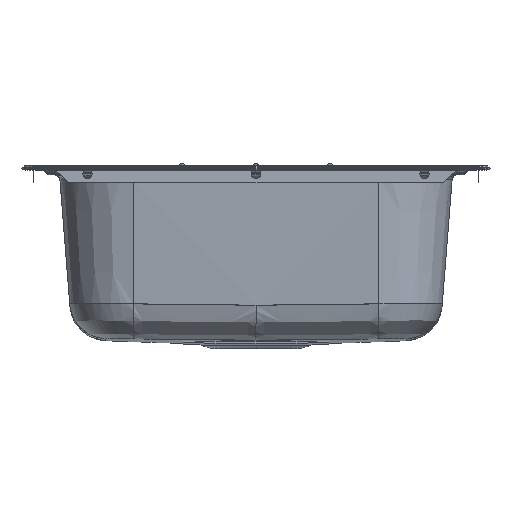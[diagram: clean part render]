
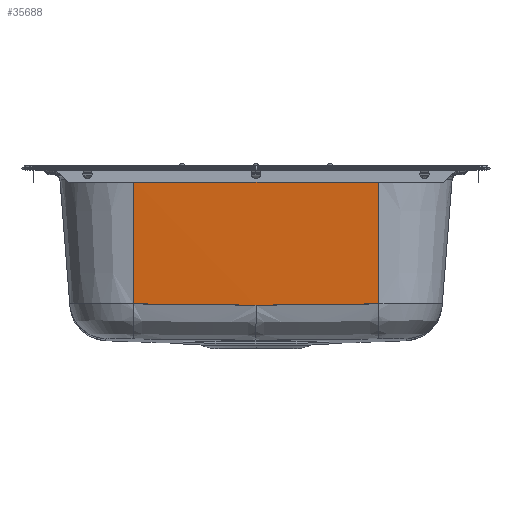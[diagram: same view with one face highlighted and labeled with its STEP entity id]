
A CAD part, left-side view. The second image highlights one B-rep face of the part: STEP entity #35688.
In plain terms, the highlighted conical face has half-angle 4.5 degrees and reference radius 4995.03 mm.
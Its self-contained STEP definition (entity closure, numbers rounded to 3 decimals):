
#8485=CARTESIAN_POINT('',(-385.632,131.042,
-147.846));
#8530=CARTESIAN_POINT('',(-396.091,131.317,
-14.91));
#8532=DIRECTION('',(-0.078,0.002,0.997));
#8533=VECTOR('',#8532,133.347);
#8534=CARTESIAN_POINT('',(-385.632,131.042,
-147.846));
#8535=LINE('',#8534,#8533);
#8576=CARTESIAN_POINT('',(-385.632,131.042,
-147.846));
#8577=CARTESIAN_POINT('',(-385.748,126.37,
-147.939));
#8578=CARTESIAN_POINT('',(-385.964,117.123,
-148.115));
#8579=CARTESIAN_POINT('',(-386.245,103.561,
-148.352));
#8580=CARTESIAN_POINT('',(-386.487,90.25,
-148.564));
#8581=CARTESIAN_POINT('',(-386.692,77.139,
-148.749));
#8582=CARTESIAN_POINT('',(-386.863,64.16,
-148.907));
#8583=CARTESIAN_POINT('',(-387.002,51.249,
-149.039));
#8584=CARTESIAN_POINT('',(-387.109,38.4,
-149.143));
#8585=CARTESIAN_POINT('',(-387.186,25.554,
-149.218));
#8586=CARTESIAN_POINT('',(-387.231,12.721,
-149.263));
#8587=CARTESIAN_POINT('',(-387.241,4.232,
-149.273));
#8588=CARTESIAN_POINT('',(-387.241,0.,
-149.273));
#8590=CARTESIAN_POINT('',(4602.5,0.,-14.91));
#8591=DIRECTION('',(0.,0.,1.));
#8592=DIRECTION('',(-1.,0.026,0.));
#8593=AXIS2_PLACEMENT_3D('',#8590,#8591,#8592);
#8595=CARTESIAN_POINT('',(-396.095,131.183,
-14.91));
#8596=CARTESIAN_POINT('',(-396.274,124.379,
-14.902));
#8597=CARTESIAN_POINT('',(-396.582,111.605,
-14.887));
#8598=CARTESIAN_POINT('',(-396.905,95.992,
-14.873));
#8599=CARTESIAN_POINT('',(-397.175,80.791,
-14.86));
#8600=CARTESIAN_POINT('',(-397.407,65.004,
-14.85));
#8601=CARTESIAN_POINT('',(-397.589,48.919,
-14.842));
#8602=CARTESIAN_POINT('',(-397.71,34.522,
-14.836));
#8603=CARTESIAN_POINT('',(-397.802,17.492,
-14.833));
#8604=CARTESIAN_POINT('',(-397.832,-0.305,
-14.831));
#8605=CARTESIAN_POINT('',(-397.8,-18.092,
-14.833));
#8606=CARTESIAN_POINT('',(-397.706,-35.053,
-14.837));
#8607=CARTESIAN_POINT('',(-397.584,-49.419,
-14.842));
#8608=CARTESIAN_POINT('',(-397.4,-65.561,
-14.85));
#8609=CARTESIAN_POINT('',(-397.166,-81.337,
-14.861));
#8610=CARTESIAN_POINT('',(-396.895,-96.486,
-14.873));
#8611=CARTESIAN_POINT('',(-396.573,-111.966,
-14.888));
#8612=CARTESIAN_POINT('',(-396.27,-124.517,
-14.902));
#8613=CARTESIAN_POINT('',(-396.095,-131.183,
-14.91));
#8615=CARTESIAN_POINT('',(4602.5,0.,-14.91));
#8616=DIRECTION('',(0.,0.,1.));
#8617=DIRECTION('',(-1.,-0.026,0.));
#8618=AXIS2_PLACEMENT_3D('',#8615,#8616,#8617);
#8620=CARTESIAN_POINT('',(-387.241,0.,
-149.273));
#8621=CARTESIAN_POINT('',(-387.241,-4.232,
-149.273));
#8622=CARTESIAN_POINT('',(-387.231,-12.721,
-149.263));
#8623=CARTESIAN_POINT('',(-387.186,-25.554,
-149.218));
#8624=CARTESIAN_POINT('',(-387.109,-38.399,
-149.143));
#8625=CARTESIAN_POINT('',(-387.002,-51.248,
-149.039));
#8626=CARTESIAN_POINT('',(-386.863,-64.159,
-148.907));
#8627=CARTESIAN_POINT('',(-386.692,-77.139,
-148.749));
#8628=CARTESIAN_POINT('',(-386.487,-90.249,
-148.564));
#8629=CARTESIAN_POINT('',(-386.245,-103.561,
-148.352));
#8630=CARTESIAN_POINT('',(-385.964,-117.123,
-148.115));
#8631=CARTESIAN_POINT('',(-385.748,-126.37,
-147.939));
#8632=CARTESIAN_POINT('',(-385.632,-131.042,
-147.846));
#8681=DIRECTION('',(-0.078,-0.002,0.997));
#8682=VECTOR('',#8681,133.347);
#8683=CARTESIAN_POINT('',(-385.632,-131.042,
-147.846));
#8684=LINE('',#8683,#8682);
#21551=VERTEX_POINT('',#8530);
#21553=CARTESIAN_POINT('',(-396.095,131.183,
-14.91));
#21554=VERTEX_POINT('',#21553);
#21556=VERTEX_POINT('',#8613);
#21558=CARTESIAN_POINT('',(-396.091,-131.317,
-14.91));
#21559=VERTEX_POINT('',#21558);
#21658=VERTEX_POINT('',#8485);
#21660=VERTEX_POINT('',#8588);
#21662=VERTEX_POINT('',#8632);
#35669=CARTESIAN_POINT('',(4602.5,0.,-82.052));
#35670=DIRECTION('',(0.,0.,1.));
#35671=DIRECTION('',(1.,-0.026,0.));
#35672=AXIS2_PLACEMENT_3D('',#35669,#35670,#35671);
#35673=CONICAL_SURFACE('',#35672,4995.032,4.5);
#35675=ORIENTED_EDGE('',*,*,#35674,.F.);
#35676=ORIENTED_EDGE('',*,*,#35265,.T.);
#35677=ORIENTED_EDGE('',*,*,#35660,.T.);
#35679=ORIENTED_EDGE('',*,*,#35678,.T.);
#35681=ORIENTED_EDGE('',*,*,#35680,.T.);
#35683=ORIENTED_EDGE('',*,*,#35682,.F.);
#35685=ORIENTED_EDGE('',*,*,#35684,.F.);
#35686=EDGE_LOOP('',(#35675,#35676,#35677,#35679,#35681,#35683,#35685));
#35687=FACE_OUTER_BOUND('',#35686,.F.);
#8589=B_SPLINE_CURVE_WITH_KNOTS('',3,(#8576,#8577,#8578,#8579,#8580,#8581,#8582,
#8583,#8584,#8585,#8586,#8587,#8588),.UNSPECIFIED.,.F.,.F.,(4,1,1,1,1,1,1,1,1,1,
4),(0.,0.1,0.2,0.3,0.4,0.5,0.6,0.7,0.8,0.9,1.),
.UNSPECIFIED.);
#8594=CIRCLE('',#8593,5000.316);
#8614=B_SPLINE_CURVE_WITH_KNOTS('',3,(#8595,#8596,#8597,#8598,#8599,#8600,#8601,
#8602,#8603,#8604,#8605,#8606,#8607,#8608,#8609,#8610,#8611,#8612,#8613),
.UNSPECIFIED.,.F.,.F.,(4,1,1,1,1,1,1,1,1,1,1,1,1,1,1,1,4),(0.,0.063,0.125,
0.188,0.25,0.313,0.375,0.438,0.5,0.563,0.625,0.688,
0.75,0.813,0.875,0.938,1.),.UNSPECIFIED.);
#8619=CIRCLE('',#8618,5000.316);
#8633=B_SPLINE_CURVE_WITH_KNOTS('',3,(#8620,#8621,#8622,#8623,#8624,#8625,#8626,
#8627,#8628,#8629,#8630,#8631,#8632),.UNSPECIFIED.,.F.,.F.,(4,1,1,1,1,1,1,1,1,1,
4),(0.,0.1,0.2,0.3,0.4,0.5,0.6,0.7,0.8,0.9,1.),
.UNSPECIFIED.);
#35265=EDGE_CURVE('',#21658,#21551,#8535,.T.);
#35660=EDGE_CURVE('',#21551,#21554,#8594,.T.);
#35674=EDGE_CURVE('',#21658,#21660,#8589,.T.);
#35678=EDGE_CURVE('',#21554,#21556,#8614,.T.);
#35680=EDGE_CURVE('',#21556,#21559,#8619,.T.);
#35682=EDGE_CURVE('',#21662,#21559,#8684,.T.);
#35684=EDGE_CURVE('',#21660,#21662,#8633,.T.);
#35688=ADVANCED_FACE('',(#35687),#35673,.T.);
